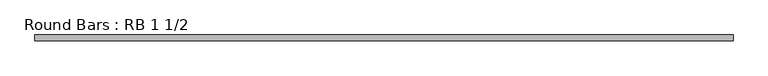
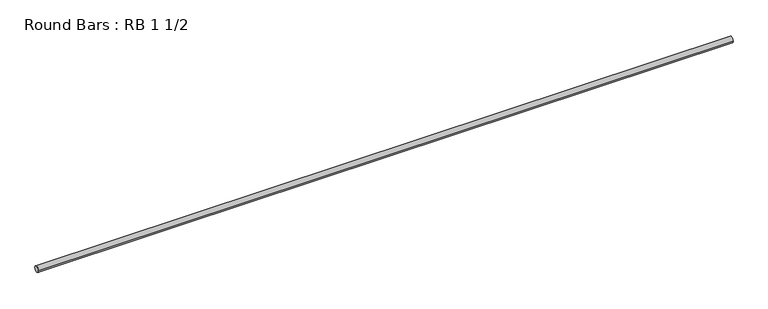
"""IFC4 building model written with IfcOpenShell, lengths in millimetres: member geometry, Round Bars : RB 1 1/2."""

from ifc_helpers import new_model, si_unit, point, frame, origin, origin_2d, place, context, project, spatial, circle_curve, trimmed, segment, composite_curve, outline, extrude, source, transform, mapped, element, save


def round_bars_rb_1_1_2_7acd3910(model_context):
    return source(origin(), model_context, "Body", "SweptSolid", [
        extrude(outline(composite_curve([segment(trimmed(circle_curve(origin_2d(), 19.05), [point((19.05, 0.0))], [point((-19.05, 0.0))], False, "CARTESIAN"), True, "CONTINUOUS"), segment(trimmed(circle_curve(origin_2d(), 19.05), [point((-19.05, 0.0))], [point((19.05, 0.0))], False, "CARTESIAN"), True, "CONTINUOUS")], self_intersect=False)), frame((-2202.3285563, 0.0, 0.0), z_axis=(1.0, 0.0, 0.0), x_axis=(0.0, 1.0, 0.0)), (0.0, 0.0, 1.0), 4404.6571125),
    ])


if __name__ == "__main__":
    model = new_model("IFC4")
    model_context = context("Model", 3, world=origin())
    ifc_project = project(units=[si_unit("LENGTHUNIT", "METRE", prefix="MILLI")], contexts=[model_context])
    site = spatial("IfcSite", under=ifc_project)
    building = spatial("IfcBuilding", under=site)
    placement = place(None, origin())
    round_bars_rb_1_1_2_shape = round_bars_rb_1_1_2_7acd3910(model_context)
    element("IfcMember", 1, ObjectType="Round Bars : RB 1 1/2", at=placement, inside=building, context=model_context, shape_type="MappedRepresentation", body=[
        mapped(round_bars_rb_1_1_2_shape, transform((0.0, 0.0, 0.0), x_axis=(1.0, 0.0, 0.0), y_axis=(0.0, 1.0, 0.0), z_axis=(0.0, 0.0, 1.0))),
    ])
    save(model, "model.ifc")
